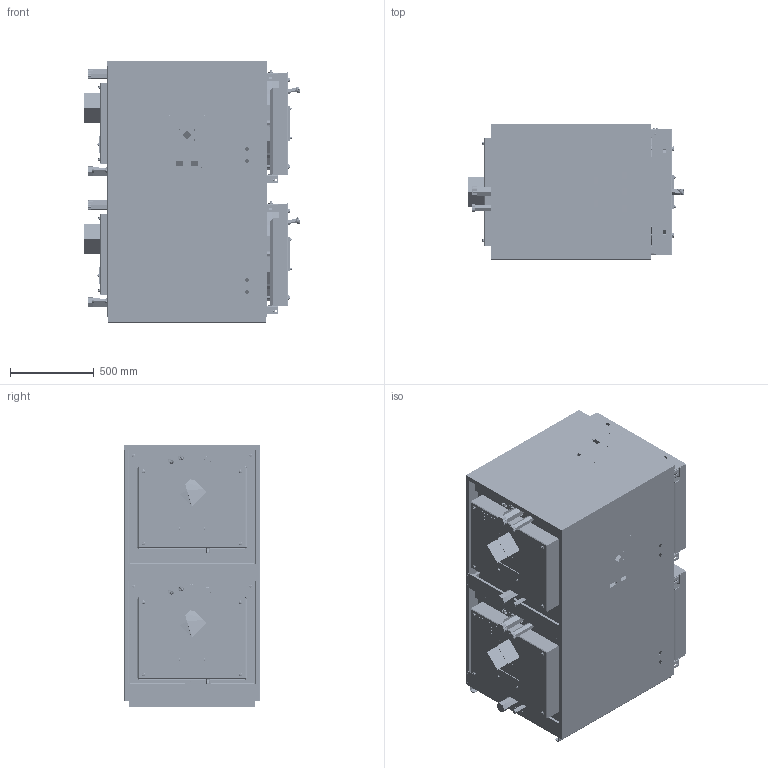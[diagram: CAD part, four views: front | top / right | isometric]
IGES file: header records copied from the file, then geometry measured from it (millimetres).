
Start section: START RECORD GO HERE.
Global section: file name: 20067748_aperta.igs; native system: DASSAULT SYSTEMES CATIA V5 R20 - www.3ds.com; preprocessor: CATIA Version 5 Release 20 SP 6 ; author: Riello S.p.A.; organization: ASE; date: 20130925.172409; units: millimetre
Bounding box: 1288.59 x 806.6 x 1561.6 mm (x, y, z)
Surface area: 39543809.9 mm2 (no closed solid volume)
Topology: 0 solids, 0 shells, 24319 faces, 116446 edges, 116384 vertices
Faces by surface type: plane 15680, revolution 8061, bspline 578
